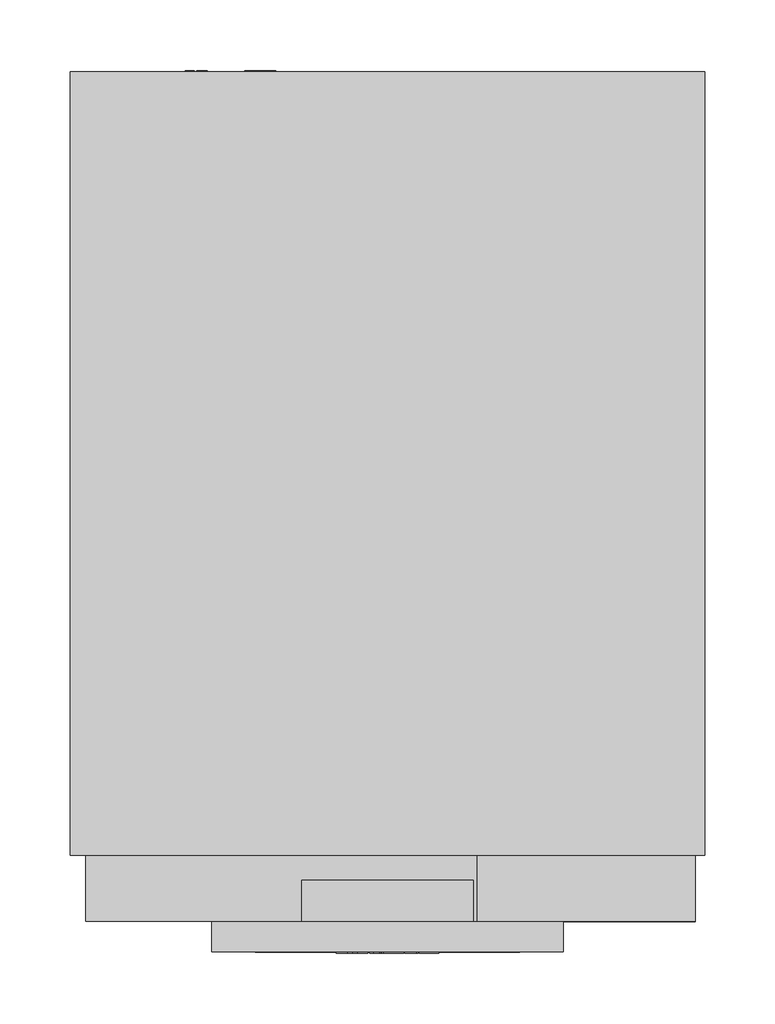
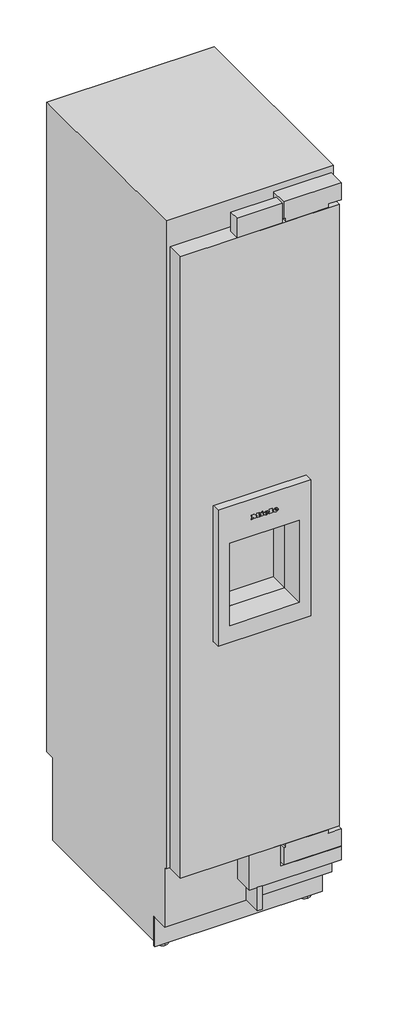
# Not in any storey: 1 proxy.
"""IFC4 building model written with IfcOpenShell, lengths in millimetres."""

import ifcopenshell
import ifcopenshell.guid

model = None  # the IFC model being written
_history = None  # IfcOwnerHistory: only IFC2X3 demands one
_inside = {}  # id of a spatial element -> (the spatial element, [elements in it])
_under = {}  # id of a project, library or spatial element -> (it, [spatial elements below it])
_declared = {}  # id of a project -> (the project, [libraries it declares])
_typed = {}  # id of a type object -> (the type object, [elements of that type])
_made_of = {}  # id of a material, layer set ... -> (it, [elements and type objects made of it])


def new_model(schema):
    """Start an empty IFC model of exactly this schema.

    Asked for "IFC4X3", IfcOpenShell would pick the latest addendum, in which some entities
    have other attributes; the version numbers below select the first issue.
    IFC2X3 requires an IfcOwnerHistory on every rooted entity: one is made here for all.
    """
    global model, _history
    if schema == "IFC4X3":
        model = ifcopenshell.file(schema_version=(4, 3, 0, 0))
    else:
        model = ifcopenshell.file(schema=schema)
    _inside.clear()
    _under.clear()
    _declared.clear()
    _typed.clear()
    _made_of.clear()
    _history = None
    if model.schema == "IFC2X3":
        org = make("IfcOrganization", Name="unknown")
        user = make(
            "IfcPersonAndOrganization",
            ThePerson=make("IfcPerson", FamilyName="unknown"),
            TheOrganization=org,
        )
        app = make(
            "IfcApplication",
            ApplicationDeveloper=org,
            Version="unknown",
            ApplicationFullName="unknown",
            ApplicationIdentifier="unknown",
        )
        _history = make(
            "IfcOwnerHistory",
            OwningUser=user,
            OwningApplication=app,
            ChangeAction="ADDED",
            CreationDate=0,
        )
    return model


def make(cls, **values):
    """One entity of the class cls with the attributes given. An attribute that is None is left unset."""
    return model.create_entity(
        cls, **{name: value for name, value in values.items() if value is not None}
    )


def rooted(cls, **values):
    """An entity with a GlobalId (a new one), such as an element, a storey or a relation."""
    return make(cls, GlobalId=ifcopenshell.guid.new(), OwnerHistory=_history, **values)


def si_unit(unit_type, name, prefix=None):
    """IfcSIUnit, for example si_unit("LENGTHUNIT", "METRE", prefix="MILLI")."""
    return make("IfcSIUnit", UnitType=unit_type, Prefix=prefix, Name=name)


def assignment(units):
    """IfcUnitAssignment: the units of a project."""
    return None if units is None else make("IfcUnitAssignment", Units=units)


def point(xyz):
    """IfcCartesianPoint."""
    return None if xyz is None else make("IfcCartesianPoint", Coordinates=xyz)


def direction(xyz):
    """IfcDirection."""
    return None if xyz is None else make("IfcDirection", DirectionRatios=xyz)


def frame(location, z_axis=None, x_axis=None):
    """IfcAxis2Placement3D, a coordinate frame: its origin and axes. An axis left out is left unset."""
    return make(
        "IfcAxis2Placement3D",
        Location=point(location),
        Axis=direction(z_axis),
        RefDirection=direction(x_axis),
    )


def frame_2d(location, x_axis=None):
    """IfcAxis2Placement2D, a coordinate frame in the plane: its origin and x axis."""
    return make(
        "IfcAxis2Placement2D", Location=point(location), RefDirection=direction(x_axis)
    )


def origin():
    """The frame at (0, 0, 0) with its axes left unset."""
    return frame((0.0, 0.0, 0.0))


def place(relative_to, where):
    """IfcLocalPlacement: puts the frame where relative to a parent placement (None: the world)."""
    return make(
        "IfcLocalPlacement", PlacementRelTo=relative_to, RelativePlacement=where
    )


def context(
    kind, dimensions, precision=None, world=None, true_north=None, identifier=None
):
    """IfcGeometricRepresentationContext, for example the 3D "Model" context."""
    return make(
        "IfcGeometricRepresentationContext",
        ContextIdentifier=identifier,
        ContextType=kind,
        CoordinateSpaceDimension=dimensions,
        Precision=precision,
        WorldCoordinateSystem=world,
        TrueNorth=true_north,
    )


def project(units=None, contexts=None):
    """IfcProject with its units and contexts."""
    return rooted(
        "IfcProject",
        Name="project",
        RepresentationContexts=contexts,
        UnitsInContext=assignment(units),
    )


def spatial(cls, under=None, at=None, **own):
    """A site, building, storey or space (cls), placed at a placement, below another one or the project."""
    s = rooted(cls, ObjectPlacement=at, **own)
    if under is not None:
        _under.setdefault(under.id(), (under, []))[1].append(s)
    return s


def polyline(points):
    """IfcPolyline through the points."""
    return make("IfcPolyline", Points=[point(p) for p in points])


def circle_curve(where, radius):
    """IfcCircle in the frame where."""
    return make("IfcCircle", Position=where, Radius=radius)


def ellipse_curve(where, semi_axis1, semi_axis2):
    """IfcEllipse in the frame where."""
    return make(
        "IfcEllipse", Position=where, SemiAxis1=semi_axis1, SemiAxis2=semi_axis2
    )


def trimmed(basis, trim1, trim2, sense, master):
    """IfcTrimmedCurve: the piece of a basis curve between two trims."""
    return make(
        "IfcTrimmedCurve",
        BasisCurve=basis,
        Trim1=trim1,
        Trim2=trim2,
        SenseAgreement=sense,
        MasterRepresentation=master,
    )


def segment(curve, same_sense, transition):
    """IfcCompositeCurveSegment."""
    return make(
        "IfcCompositeCurveSegment",
        Transition=transition,
        SameSense=same_sense,
        ParentCurve=curve,
    )


def composite_curve(segments, self_intersect=None):
    """IfcCompositeCurve: segments joined end to end."""
    return make("IfcCompositeCurve", Segments=segments, SelfIntersect=self_intersect)


def outline(outer, holes=None, kind="AREA"):
    """IfcArbitraryClosedProfileDef: a profile drawn as a closed curve; with holes, ...WithVoids."""
    if holes is None:
        return make("IfcArbitraryClosedProfileDef", ProfileType=kind, OuterCurve=outer)
    return make(
        "IfcArbitraryProfileDefWithVoids",
        ProfileType=kind,
        OuterCurve=outer,
        InnerCurves=holes,
    )


def extrude(swept, where, along, depth):
    """IfcExtrudedAreaSolid: the profile swept, set in the frame where, extruded along a direction by depth."""
    return make(
        "IfcExtrudedAreaSolid",
        SweptArea=swept,
        Position=where,
        ExtrudedDirection=direction(along),
        Depth=depth,
    )


def faces_of(points, faces, orient=None, outer=None):
    """IfcFace entities. A face is a list of loops; a loop is a list of indices into points, from 0.

    orient and outer hold one flag for each loop. By default every Orientation is true, the
    first loop of a face is its IfcFaceOuterBound and the others are IfcFaceBound.
    """
    made = []
    for i, loops in enumerate(faces):
        bounds = []
        for j, loop in enumerate(loops):
            is_outer = j == 0 if outer is None else outer[i][j]
            bounds.append(
                make(
                    "IfcFaceOuterBound" if is_outer else "IfcFaceBound",
                    Bound=make("IfcPolyLoop", Polygon=[points[k] for k in loop]),
                    Orientation=True if orient is None else orient[i][j],
                )
            )
        made.append(make("IfcFace", Bounds=bounds))
    return made


def faceted_brep(points, faces, orient=None, outer=None, voids=None):
    """IfcFacetedBrep: a solid bounded by flat faces; with voids (closed shells), ...WithVoids."""
    shared = [point(p) for p in points]
    hull = make("IfcClosedShell", CfsFaces=faces_of(shared, faces, orient, outer))
    if voids is None:
        return make("IfcFacetedBrep", Outer=hull)
    return make(
        "IfcFacetedBrepWithVoids",
        Outer=hull,
        Voids=[
            make(cls, CfsFaces=faces_of(shared, fs, o, b)) for cls, fs, o, b in voids
        ],
    )


def shape(context_of_items, identifier, shape_type, items):
    """IfcShapeRepresentation: the items that make up one representation, for example the "Body"."""
    return make(
        "IfcShapeRepresentation",
        ContextOfItems=context_of_items,
        RepresentationIdentifier=identifier,
        RepresentationType=shape_type,
        Items=items,
    )


def source(mapping_origin, context_of_items, identifier, shape_type, items):
    """IfcRepresentationMap: a shape defined once, which mapped items show again and again."""
    return make(
        "IfcRepresentationMap",
        MappingOrigin=mapping_origin,
        MappedRepresentation=shape(context_of_items, identifier, shape_type, items),
    )


def transform(
    local_origin,
    x_axis=None,
    y_axis=None,
    z_axis=None,
    scale=None,
    scale2=None,
    scale3=None,
    uniform=True,
):
    """IfcCartesianTransformationOperator3D, or its non-uniform kind. x_axis, y_axis, z_axis: its Axis1, 2, 3."""
    if uniform:
        return make(
            "IfcCartesianTransformationOperator3D",
            Axis1=direction(x_axis),
            Axis2=direction(y_axis),
            LocalOrigin=point(local_origin),
            Scale=scale,
            Axis3=direction(z_axis),
        )
    return make(
        "IfcCartesianTransformationOperator3DnonUniform",
        Axis1=direction(x_axis),
        Axis2=direction(y_axis),
        LocalOrigin=point(local_origin),
        Scale=scale,
        Axis3=direction(z_axis),
        Scale2=scale2,
        Scale3=scale3,
    )


def mapped(mapping_source, mapping_target):
    """IfcMappedItem: shows the shape of a source again, moved by a transform."""
    return make(
        "IfcMappedItem", MappingSource=mapping_source, MappingTarget=mapping_target
    )


def made_of(thing, what):
    """Note that an element or type object is made of a material, layer set ...; save() writes the relation."""
    if what is not None:
        _made_of.setdefault(what.id(), (what, []))[1].append(thing)
    return thing


def element(
    cls,
    number,
    at=None,
    inside=None,
    cuts=None,
    type_object=None,
    material=None,
    context=None,
    identifier="Body",
    shape_type=None,
    held_by="IfcProductDefinitionShape",
    body=None,
    shapes=None,
    **own,
):
    """One element of the class cls, such as IfcWall. Its Tag is "e" and its number.

    at: its placement. inside: the storey or other place that contains it. cuts: it is an
    opening in that element (IfcRelVoidsElement). A single representation is given by context,
    identifier, shape_type and body (its items); several are given by shapes. held_by: the class
    of the entity that holds the representations. save() writes the other relations.
    """
    e = rooted(cls, Tag="e%d" % number, ObjectPlacement=at, **own)
    if body is not None:
        shapes = [shape(context, identifier, shape_type, body)]
    if shapes is not None:
        e.Representation = make(held_by, Representations=shapes)
    if inside is not None:
        _inside.setdefault(inside.id(), (inside, []))[1].append(e)
    if cuts is not None:
        rooted(
            "IfcRelVoidsElement", RelatingBuildingElement=cuts, RelatedOpeningElement=e
        )
    if type_object is not None:
        _typed.setdefault(type_object.id(), (type_object, []))[1].append(e)
    return made_of(e, material)


def aggregate(whole, parts):
    """IfcRelAggregates: a whole, such as a stair, and the parts it consists of."""
    return rooted("IfcRelAggregates", RelatingObject=whole, RelatedObjects=parts)


def save(model, path):
    """Write the relations noted so far, then the file.

    IfcRelAggregates (storeys below a building ...), IfcRelContainedInSpatialStructure (elements
    in a storey), IfcRelDefinesByType, IfcRelAssociatesMaterial and IfcRelDeclares: one each for
    every whole, place, type object, material and project.
    """
    for whole, parts in _under.values():
        aggregate(whole, parts)
    for where, things in _inside.values():
        rooted(
            "IfcRelContainedInSpatialStructure",
            RelatedElements=things,
            RelatingStructure=where,
        )
    for kind, things in _typed.values():
        rooted("IfcRelDefinesByType", RelatedObjects=things, RelatingType=kind)
    for what, things in _made_of.values():
        rooted("IfcRelAssociatesMaterial", RelatedObjects=things, RelatingMaterial=what)
    for by, libraries in _declared.values():
        rooted("IfcRelDeclares", RelatingContext=by, RelatedDefinitions=libraries)
    model.write(path)


def plane_surface(at):
    """IfcPlane: the flat surface through the origin of the frame at, square to its z axis."""
    return make("IfcPlane", Position=at)


def cylinder_surface(at, radius):
    """IfcCylindricalSurface: all points at the distance radius from the z axis of the frame at."""
    return make("IfcCylindricalSurface", Position=at, Radius=radius)


def revolved_surface(curve, axis_point, axis_direction):
    """IfcSurfaceOfRevolution: the curve turned about the line through axis_point along axis_direction."""
    return make(
        "IfcSurfaceOfRevolution",
        SweptCurve=make("IfcArbitraryOpenProfileDef", ProfileType="CURVE", Curve=curve),
        AxisPosition=make("IfcAxis1Placement", Location=point(axis_point), Axis=direction(axis_direction)),
    )


def extruded_surface(curve, direction_of_extrusion, depth):
    """IfcSurfaceOfLinearExtrusion: the curve pushed along a direction by depth."""
    return make(
        "IfcSurfaceOfLinearExtrusion",
        SweptCurve=make("IfcArbitraryOpenProfileDef", ProfileType="CURVE", Curve=curve),
        ExtrudedDirection=direction(direction_of_extrusion),
        Depth=depth,
    )


def advanced_brep(points, edges, surfaces, faces):
    """IfcAdvancedBrep: a solid bounded by faces that lie on surfaces and meet in shared edges.

    An edge is (start, end): straight between two places in points (the first is 0);
    or (start, end, curve); or (start, end, curve, False) where it runs against its curve.
    A face is (place in surfaces, loops), or (place, loops, False) where it looks against
    its surface's normal. A loop lists edges by number (the first is 1), with a minus sign
    where the edge is run from its end to its start. The first loop is the outer one.
    """
    corners = [point(p) for p in points]
    vertices = [make("IfcVertexPoint", VertexGeometry=c) for c in corners]
    made = []
    for start, end, *more in edges:
        made.append(
            make(
                "IfcEdgeCurve",
                EdgeStart=vertices[start],
                EdgeEnd=vertices[end],
                EdgeGeometry=more[0] if more else make("IfcPolyline", Points=[corners[start], corners[end]]),
                SameSense=more[1] if len(more) > 1 else True,
            )
        )
    hull = []
    for where, loops, *sense in faces:
        bounds = []
        for j, loop in enumerate(loops):
            ring = [make("IfcOrientedEdge", EdgeElement=made[abs(k) - 1], Orientation=k > 0) for k in loop]
            bounds.append(
                make(
                    "IfcFaceOuterBound" if j == 0 else "IfcFaceBound",
                    Bound=make("IfcEdgeLoop", EdgeList=ring),
                    Orientation=True,
                )
            )
        hull.append(make("IfcAdvancedFace", Bounds=bounds, FaceSurface=surfaces[where], SameSense=sense[0] if sense else True))
    return make("IfcAdvancedBrep", Outer=make("IfcClosedShell", CfsFaces=hull))


def specialty_equipment_a8662d09(model_context):
    return source(origin(), model_context, "Body", "SolidModel", [
        extrude(outline(polyline([(-6.5, 54.0), (6.5, 54.0), (6.5, 0.0), (-6.5, 0.0), (-6.5, 54.0)])), frame((0.0, 0.0, 99.0), z_axis=(0.0, 0.0, 1.0), x_axis=(1.0, 0.0, 0.0)), (0.0, 0.0, 1.0), 67.0),
        faceted_brep([(125.0, -21.7, 1295.0), (-125.0, -21.7, 1295.0), (-125.0, -21.7, 908.0), (125.0, -21.7, 908.0), (94.0, -21.7, 1190.0), (94.0, -21.7, 956.0), (-94.0, -21.7, 956.0), (-94.0, -21.7, 1190.0), (125.0, 47.0, 1295.0), (125.0, 47.0, 908.0), (-125.0, 47.0, 908.0), (-125.0, 47.0, 1295.0), (94.0, 47.0, 1190.0), (-94.0, 47.0, 1190.0), (-94.0, 47.0, 956.0), (94.0, 47.0, 956.0), (-94.0, -11.7943775, 1190.0), (94.0, -11.7943775, 1190.0), (-94.0, -11.7943775, 956.0), (94.0, -11.7943775, 956.0)], [[[0, 1, 2, 3], [4, 5, 6, 7]], [[8, 9, 10, 11], [12, 13, 14, 15]], [[0, 3, 9, 8]], [[3, 2, 10, 9]], [[2, 1, 11, 10]], [[1, 0, 8, 11]], [[4, 7, 16, 13, 12, 17]], [[7, 6, 18, 14, 13, 16]], [[6, 5, 19, 15, 14, 18]], [[5, 4, 17, 12, 15, 19]]]),
        extrude(outline(polyline([(2036.0, 214.5), (2036.0, -214.5), (265.0, -214.5), (265.0, 214.5), (2036.0, 214.5)]), holes=[polyline([(1295.0, 125.0), (908.0, 125.0), (908.0, -125.0), (1295.0, -125.0), (1295.0, 125.0)])]), frame((0.0, 0.0, 0.0), z_axis=(0.0, 1.0, 0.0), x_axis=(0.0, 0.0, 1.0)), (0.0, 0.0, 1.0), 47.0),
        faceted_brep([(-158.0, 47.0, 863.0), (-158.0, 47.0, 1335.0), (-158.0, 239.0, 1335.0), (-158.0, 239.0, 987.0), (-158.0, 140.0, 863.0), (158.0, 47.0, 863.0), (158.0, 140.0, 863.0), (158.0, 239.0, 987.0), (158.0, 239.0, 1335.0), (158.0, 47.0, 1335.0), (94.0, 47.0, 1190.0), (94.0, 47.0, 956.0), (-94.0, 47.0, 956.0), (-94.0, 47.0, 1190.0), (94.0, 100.0, 1190.0), (-94.0, 100.0, 1190.0), (-94.0, 100.0, 956.0), (94.0, 100.0, 956.0)], [[[0, 1, 2, 3, 4]], [[5, 6, 7, 8, 9]], [[0, 4, 6, 5]], [[4, 3, 7, 6]], [[3, 2, 8, 7]], [[2, 1, 9, 8]], [[1, 0, 5, 9], [10, 11, 12, 13]], [[14, 15, 16, 17]], [[14, 17, 11, 10]], [[17, 16, 12, 11]], [[16, 15, 13, 12]], [[15, 14, 10, 13]]]),
        extrude(outline(polyline([(-61.0, 29.0), (61.0, 29.0), (61.0, 0.0), (-61.0, 0.0), (-61.0, 29.0)])), frame((0.0, 0.0, 2036.0), z_axis=(0.0, 0.0, 1.0), x_axis=(1.0, 0.0, 0.0)), (0.0, 0.0, 1.0), 56.0),
        advanced_brep(
        [(28.472, -22.7, 1241.344), (28.472, -22.7, 1242.556), (36.5, -22.7, 1242.556), (22.532, -22.7, 1242.556), (25.832, -22.7, 1238.5), (36.296, -22.7, 1241.344), (32.672, -22.7, 1241.344), (29.816, -22.7, 1240.0), (28.472, -22.7, 1244.092), (28.472, -22.7, 1245.4), (30.524, -22.7, 1245.4), (30.524, -22.7, 1244.092), (28.472, -21.7, 1241.344), (29.816, -21.7, 1240.0), (32.672, -21.7, 1241.344), (36.296, -21.7, 1241.344), (25.832, -21.7, 1238.5), (22.532, -21.7, 1242.556), (36.5, -21.7, 1242.556), (28.472, -21.7, 1242.556), (28.472, -21.7, 1244.092), (30.524, -21.7, 1244.092), (30.524, -21.7, 1245.4), (28.472, -21.7, 1245.4)],
        [
            (0, 1),
            (1, 2),
            (2, 3, ellipse_curve(frame((29.516, -22.7, 1242.556), z_axis=(0.0, -1.0, 0.0), x_axis=(-1.0, 0.0, 0.0)), 6.984, 5.772)),
            (3, 4, circle_curve(frame((27.1760655, -22.7, 1242.964), z_axis=(0.0, -1.0, 0.0), x_axis=(0.0, 0.0, -1.0)), 4.6619532)),
            (4, 5, circle_curve(frame((29.3761904, -22.7, 1246.132), z_axis=(0.0, -1.0, 0.0), x_axis=(0.0, 0.0, -1.0)), 8.4147911)),
            (5, 6),
            (6, 7, circle_curve(frame((30.4025882, -22.7, 1242.46), z_axis=(0.0, 1.0, 0.0), x_axis=(0.0, 0.0, -1.0)), 2.5289693)),
            (7, 0, circle_curve(frame((29.816, -22.7, 1241.344), z_axis=(0.0, 1.0, 0.0), x_axis=(0.0, 0.0, -1.0)), 1.344)),
            (8, 9),
            (9, 10, circle_curve(frame((29.498, -22.7, 1245.4), z_axis=(0.0, 1.0, 0.0), x_axis=(0.0, 0.0, -1.0)), 1.026)),
            (10, 11),
            (11, 8),
            (12, 13, circle_curve(frame((29.816, -21.7, 1241.344), z_axis=(0.0, -1.0, 0.0), x_axis=(0.0, 0.0, -1.0)), 1.344)),
            (13, 14, circle_curve(frame((30.4025882, -21.7, 1242.46), z_axis=(0.0, -1.0, 0.0), x_axis=(0.0, 0.0, -1.0)), 2.5289693)),
            (14, 15),
            (15, 16, circle_curve(frame((29.3761904, -21.7, 1246.132), z_axis=(0.0, 1.0, 0.0), x_axis=(0.0, 0.0, -1.0)), 8.4147911)),
            (16, 17, circle_curve(frame((27.1760655, -21.7, 1242.964), z_axis=(0.0, 1.0, 0.0), x_axis=(0.0, 0.0, -1.0)), 4.6619532)),
            (17, 18, ellipse_curve(frame((29.516, -21.7, 1242.556), z_axis=(0.0, 1.0, 0.0), x_axis=(-1.0, 0.0, 0.0)), 6.984, 5.772)),
            (18, 19),
            (19, 12),
            (20, 21),
            (21, 22),
            (22, 23, circle_curve(frame((29.498, -21.7, 1245.4), z_axis=(0.0, -1.0, 0.0), x_axis=(0.0, 0.0, -1.0)), 1.026)),
            (23, 20),
            (0, 12),
            (19, 1),
            (18, 2),
            (5, 15),
            (14, 6),
            (17, 3),
            (13, 7),
            (16, 4),
            (8, 20),
            (23, 9),
            (22, 10),
            (21, 11),
        ],
        [
            plane_surface(frame((28.472, -22.7, 1242.556), z_axis=(0.0, -1.0, 0.0), x_axis=(0.0, 0.0, 1.0))),
            plane_surface(frame((28.472, -21.7, 1242.556), z_axis=(0.0, 1.0, 0.0), x_axis=(0.0, 0.0, -1.0))),
            plane_surface(frame((28.472, -22.7, 1241.344), z_axis=(1.0, 0.0, 0.0), x_axis=(0.0, 1.0, 0.0))),
            plane_surface(frame((28.472, -22.7, 1242.556), z_axis=(0.0, 0.0, -1.0), x_axis=(0.0, 1.0, 0.0))),
            plane_surface(frame((36.296, -22.7, 1241.344), z_axis=(0.0, 0.0, 1.0), x_axis=(0.0, 1.0, 0.0))),
            extruded_surface(trimmed(ellipse_curve(frame((29.516, -20.7, 1242.556), z_axis=(0.0, -1.0, 0.0), x_axis=(-1.0, 0.0, 0.0)), 6.984, 5.772), [point((36.5, -20.7, 1242.556))], [point((22.532, -20.7, 1242.556))], True, "CARTESIAN"), (0.0, -1.0, 0.0), 1.0),
            revolved_surface(polyline([(30.4025882, -21.7, 1239.9310307), (30.4025882, -22.7, 1239.9310307)]), (30.4025882, -21.7, 1242.46), (0.0, 1.0, 0.0)),
            revolved_surface(polyline([(29.816, -21.7, 1240.0), (29.816, -22.7, 1240.0)]), (29.816, -21.7, 1241.344), (0.0, 1.0, 0.0)),
            cylinder_surface(frame((27.1760655, -21.7, 1242.964), z_axis=(0.0, -1.0, 0.0), x_axis=(0.0, 0.0, -1.0)), 4.6619532),
            cylinder_surface(frame((29.3761904, -21.7, 1246.132), z_axis=(0.0, -1.0, 0.0), x_axis=(0.0, 0.0, -1.0)), 8.4147911),
            plane_surface(frame((28.472, -22.7, 1244.092), z_axis=(1.0, 0.0, 0.0), x_axis=(0.0, 1.0, 0.0))),
            revolved_surface(polyline([(29.498, -21.7, 1244.374), (29.498, -22.7, 1244.374)]), (29.498, -21.7, 1245.4), (0.0, 1.0, 0.0)),
            plane_surface(frame((30.524, -22.7, 1245.4), z_axis=(-1.0, 0.0, 0.0), x_axis=(0.0, 1.0, 0.0))),
            plane_surface(frame((30.524, -22.7, 1244.092), z_axis=(0.0, 0.0, 1.0), x_axis=(0.0, 1.0, 0.0))),
        ],
        [
            (0, [[1, 2, 3, 4, 5, 6, 7, 8], [9, 10, 11, 12]]),
            (1, [[13, 14, 15, 16, 17, 18, 19, 20], [21, 22, 23, 24]]),
            (2, [[-1, 25, -20, 26]]),
            (3, [[-2, -26, -19, 27]]),
            (4, [[-6, 28, -15, 29]]),
            (5, [[-3, -27, -18, 30]]),
            (6, [[-7, -29, -14, 31]]),
            (7, [[-8, -31, -13, -25]]),
            (8, [[-4, -30, -17, 32]]),
            (9, [[-5, -32, -16, -28]]),
            (10, [[-9, 33, -24, 34]]),
            (11, [[-10, -34, -23, 35]]),
            (12, [[-11, -35, -22, 36]]),
            (13, [[-12, -36, -21, -33]]),
        ],
    ),
        advanced_brep(
        [(3.428, -22.7, 1241.344), (3.428, -22.7, 1242.556), (11.456, -22.7, 1242.556), (-2.512, -22.7, 1242.556), (0.788, -22.7, 1238.5), (11.252, -22.7, 1241.344), (7.628, -22.7, 1241.344), (4.772, -22.7, 1240.0), (3.428, -22.7, 1244.092), (3.428, -22.7, 1245.4), (5.48, -22.7, 1245.4), (5.48, -22.7, 1244.092), (3.428, -21.7, 1241.344), (4.772, -21.7, 1240.0), (7.628, -21.7, 1241.344), (11.252, -21.7, 1241.344), (0.788, -21.7, 1238.5), (-2.512, -21.7, 1242.556), (11.456, -21.7, 1242.556), (3.428, -21.7, 1242.556), (3.428, -21.7, 1244.092), (5.48, -21.7, 1244.092), (5.48, -21.7, 1245.4), (3.428, -21.7, 1245.4)],
        [
            (0, 1),
            (1, 2),
            (2, 3, ellipse_curve(frame((4.472, -22.7, 1242.556), z_axis=(0.0, -1.0, 0.0), x_axis=(-1.0, 0.0, 0.0)), 6.984, 5.772)),
            (3, 4, circle_curve(frame((2.1320655, -22.7, 1242.964), z_axis=(0.0, -1.0, 0.0), x_axis=(0.0, 0.0, -1.0)), 4.6619532)),
            (4, 5, circle_curve(frame((4.3321904, -22.7, 1246.132), z_axis=(0.0, -1.0, 0.0), x_axis=(0.0, 0.0, -1.0)), 8.4147911)),
            (5, 6),
            (6, 7, circle_curve(frame((5.3585882, -22.7, 1242.46), z_axis=(0.0, 1.0, 0.0), x_axis=(0.0, 0.0, -1.0)), 2.5289693)),
            (7, 0, circle_curve(frame((4.772, -22.7, 1241.344), z_axis=(0.0, 1.0, 0.0), x_axis=(0.0, 0.0, -1.0)), 1.344)),
            (8, 9),
            (9, 10, circle_curve(frame((4.454, -22.7, 1245.4), z_axis=(0.0, 1.0, 0.0), x_axis=(0.0, 0.0, -1.0)), 1.026)),
            (10, 11),
            (11, 8),
            (12, 13, circle_curve(frame((4.772, -21.7, 1241.344), z_axis=(0.0, -1.0, 0.0), x_axis=(0.0, 0.0, -1.0)), 1.344)),
            (13, 14, circle_curve(frame((5.3585882, -21.7, 1242.46), z_axis=(0.0, -1.0, 0.0), x_axis=(0.0, 0.0, -1.0)), 2.5289693)),
            (14, 15),
            (15, 16, circle_curve(frame((4.3321904, -21.7, 1246.132), z_axis=(0.0, 1.0, 0.0), x_axis=(0.0, 0.0, -1.0)), 8.4147911)),
            (16, 17, circle_curve(frame((2.1320655, -21.7, 1242.964), z_axis=(0.0, 1.0, 0.0), x_axis=(0.0, 0.0, -1.0)), 4.6619532)),
            (17, 18, ellipse_curve(frame((4.472, -21.7, 1242.556), z_axis=(0.0, 1.0, 0.0), x_axis=(-1.0, 0.0, 0.0)), 6.984, 5.772)),
            (18, 19),
            (19, 12),
            (20, 21),
            (21, 22),
            (22, 23, circle_curve(frame((4.454, -21.7, 1245.4), z_axis=(0.0, -1.0, 0.0), x_axis=(0.0, 0.0, -1.0)), 1.026)),
            (23, 20),
            (0, 12),
            (19, 1),
            (18, 2),
            (5, 15),
            (14, 6),
            (17, 3),
            (13, 7),
            (16, 4),
            (8, 20),
            (23, 9),
            (22, 10),
            (21, 11),
        ],
        [
            plane_surface(frame((3.428, -22.7, 1242.556), z_axis=(0.0, -1.0, 0.0), x_axis=(0.0, 0.0, 1.0))),
            plane_surface(frame((3.428, -21.7, 1242.556), z_axis=(0.0, 1.0, 0.0), x_axis=(0.0, 0.0, -1.0))),
            plane_surface(frame((3.428, -22.7, 1241.344), z_axis=(1.0, 0.0, 0.0), x_axis=(0.0, 1.0, 0.0))),
            plane_surface(frame((3.428, -22.7, 1242.556), z_axis=(0.0, 0.0, -1.0), x_axis=(0.0, 1.0, 0.0))),
            plane_surface(frame((11.252, -22.7, 1241.344), z_axis=(0.0, 0.0, 1.0), x_axis=(0.0, 1.0, 0.0))),
            extruded_surface(trimmed(ellipse_curve(frame((4.472, -20.7, 1242.556), z_axis=(0.0, -1.0, 0.0), x_axis=(-1.0, 0.0, 0.0)), 6.984, 5.772), [point((11.456, -20.7, 1242.556))], [point((-2.512, -20.7, 1242.556))], True, "CARTESIAN"), (0.0, -1.0, 0.0), 1.0),
            revolved_surface(polyline([(5.3585882, -21.7, 1239.9310307), (5.3585882, -22.7, 1239.9310307)]), (5.3585882, -21.7, 1242.46), (0.0, 1.0, 0.0)),
            revolved_surface(polyline([(4.772, -21.7, 1240.0), (4.772, -22.7, 1240.0)]), (4.772, -21.7, 1241.344), (0.0, 1.0, 0.0)),
            cylinder_surface(frame((2.1320655, -21.7, 1242.964), z_axis=(0.0, -1.0, 0.0), x_axis=(0.0, 0.0, -1.0)), 4.6619532),
            cylinder_surface(frame((4.3321904, -21.7, 1246.132), z_axis=(0.0, -1.0, 0.0), x_axis=(0.0, 0.0, -1.0)), 8.4147911),
            plane_surface(frame((3.428, -22.7, 1244.092), z_axis=(1.0, 0.0, 0.0), x_axis=(0.0, 1.0, 0.0))),
            revolved_surface(polyline([(4.454, -21.7, 1244.374), (4.454, -22.7, 1244.374)]), (4.454, -21.7, 1245.4), (0.0, 1.0, 0.0)),
            plane_surface(frame((5.48, -22.7, 1245.4), z_axis=(-1.0, 0.0, 0.0), x_axis=(0.0, 1.0, 0.0))),
            plane_surface(frame((5.48, -22.7, 1244.092), z_axis=(0.0, 0.0, 1.0), x_axis=(0.0, 1.0, 0.0))),
        ],
        [
            (0, [[1, 2, 3, 4, 5, 6, 7, 8], [9, 10, 11, 12]]),
            (1, [[13, 14, 15, 16, 17, 18, 19, 20], [21, 22, 23, 24]]),
            (2, [[-1, 25, -20, 26]]),
            (3, [[-2, -26, -19, 27]]),
            (4, [[-6, 28, -15, 29]]),
            (5, [[-3, -27, -18, 30]]),
            (6, [[-7, -29, -14, 31]]),
            (7, [[-8, -31, -13, -25]]),
            (8, [[-4, -30, -17, 32]]),
            (9, [[-5, -32, -16, -28]]),
            (10, [[-9, 33, -24, 34]]),
            (11, [[-10, -34, -23, 35]]),
            (12, [[-11, -35, -22, 36]]),
            (13, [[-12, -36, -21, -33]]),
        ],
    ),
        extrude(outline(polyline([(1249.792, -9.688), (1247.848, -8.776), (1249.744, -4.708), (1251.688, -5.608), (1249.792, -9.688)])), frame((0.0, -22.7, 0.0), z_axis=(0.0, 1.0, 0.0), x_axis=(0.0, 0.0, 1.0)), (0.0, 0.0, 1.0), 1.0),
        extrude(outline(polyline([(1247.584, -12.652), (1245.436, -12.652), (1245.436, -11.224), (1240.516, -11.224), (1240.516, -12.652), (1238.5, -12.652), (1238.5, -3.184), (1240.516, -3.184), (1240.516, -4.576), (1247.584, -4.576), (1247.584, -12.652)])), frame((0.0, -22.7, 0.0), z_axis=(0.0, 1.0, 0.0), x_axis=(0.0, 0.0, 1.0)), (0.0, 0.0, 1.0), 1.0),
        extrude(outline(polyline([(1248.544, 12.128), (1248.544, 13.568), (1240.516, 13.568), (1240.516, 12.128), (1238.5, 12.128), (1238.5, 21.86), (1240.516, 21.86), (1240.516, 20.384), (1250.5, 20.384), (1250.5, 12.128), (1248.544, 12.128)])), frame((0.0, -22.7, 0.0), z_axis=(0.0, 1.0, 0.0), x_axis=(0.0, 0.0, 1.0)), (0.0, 0.0, 1.0), 1.0),
        extrude(outline(polyline([(1248.544, -36.568), (1248.544, -35.116), (1240.516, -35.116), (1240.516, -36.568), (1238.5, -36.568), (1238.5, -31.288), (1240.516, -31.288), (1240.516, -32.728), (1245.5951247, -32.728), (1238.5, -27.364), (1245.8152223, -21.976), (1240.516, -21.976), (1240.516, -23.452), (1238.5, -23.452), (1238.5, -13.876), (1240.516, -13.876), (1240.516, -15.4), (1248.544, -15.4), (1248.544, -13.876), (1250.5, -13.876), (1250.5, -21.184), (1246.0, -24.688), (1250.5, -28.204), (1250.5, -36.568), (1248.544, -36.568)])), frame((0.0, -22.7, 0.0), z_axis=(0.0, 1.0, 0.0), x_axis=(0.0, 0.0, 1.0)), (0.0, 0.0, 1.0), 1.0),
        extrude(outline(polyline([(519.0, 1998.0), (519.0, 1799.0), (447.0526316, 1799.0), (422.0, 1867.0), (201.7448904, 1867.0), (157.0, 1939.0), (87.0, 1949.0), (87.0, 1998.0), (519.0, 1998.0)])), frame((-179.5, 0.0, 0.0), z_axis=(1.0, 0.0, 0.0), x_axis=(0.0, 1.0, 0.0)), (0.0, 0.0, 1.0), 359.0),
        extrude(outline(polyline([(196.9886114, 1875.0), (195.809433, 1875.0), (158.6921935, 1934.4), (159.8713719, 1934.4), (196.9886114, 1875.0)])), frame((-69.0, 0.0, 0.0), z_axis=(1.0, 0.0, 0.0), x_axis=(0.0, 1.0, 0.0)), (0.0, 0.0, 1.0), 138.0),
        extrude(outline(polyline([(46.0510837, -89.101717), (37.4134902, -91.1745179), (46.0453554, -93.6868463), (46.0453554, -95.5601414), (37.4089549, -98.0799633), (46.0493903, -100.1581876), (46.0493903, -101.4649805), (36.0005458, -98.7156324), (36.0005458, -97.372208), (44.8261022, -94.6342221), (35.9987467, -92.0620509), (35.9987287, -90.5451466), (46.0510837, -87.800191), (46.0510837, -89.101717)])), frame((0.0, 604.0, 0.0), z_axis=(0.0, 1.0, 0.0), x_axis=(0.0, 0.0, 1.0)), (0.0, 0.0, 1.0), 1.0),
        extrude(outline(polyline([(46.0485238, -80.7401503), (41.1363122, -80.7401503), (46.0468162, -85.884602), (46.0468162, -87.6328316), (41.9156889, -83.3260313), (36.000035, -87.8032231), (36.000035, -86.2795519), (41.0742849, -82.4391666), (39.4525334, -80.7395503), (35.9999292, -80.7395503), (35.9999292, -79.4795491), (46.0485238, -79.4795491), (46.0485238, -80.7401503)])), frame((0.0, 604.0, 0.0), z_axis=(0.0, 1.0, 0.0), x_axis=(0.0, 0.0, 1.0)), (0.0, 0.0, 1.0), 1.0),
        extrude(outline(composite_curve([segment(trimmed(circle_curve(frame_2d((41.0, -90.0)), 7.5), [point((33.5, -90.0))], [point((48.5, -90.0))], False, "CARTESIAN"), True, "CONTINUOUS"), segment(trimmed(circle_curve(frame_2d((41.0, -90.0)), 7.5), [point((48.5, -90.0))], [point((33.5, -90.0))], False, "CARTESIAN"), True, "CONTINUOUS")], self_intersect=False)), frame((0.0, 577.0, 0.0), z_axis=(0.0, 1.0, 0.0), x_axis=(0.0, 0.0, 1.0)), (0.0, 0.0, 1.0), 27.0),
        extrude(outline(polyline([(2095.0, 219.0), (2095.0, 64.0), (2047.0, 64.0), (2047.0, 70.0), (2036.5, 70.0), (2036.5, 185.0), (2047.0, 185.0), (2047.0, 219.0), (2095.0, 219.0)])), frame((0.0, 0.0, 0.0), z_axis=(0.0, 1.0, 0.0), x_axis=(0.0, 0.0, 1.0)), (0.0, 0.0, 1.0), 47.0),
        extrude(outline(polyline([(254.0, 64.0), (206.0, 64.0), (206.0, 219.0), (254.0, 219.0), (254.0, 185.0), (264.0, 185.0), (264.0, 70.0), (254.0, 70.0), (254.0, 64.0)])), frame((0.0, 0.0, 0.0), z_axis=(0.0, 1.0, 0.0), x_axis=(0.0, 0.0, 1.0)), (0.0, 0.0, 1.0), 54.0),
        extrude(outline(polyline([(166.0, -28.5), (166.0, 219.0), (205.0, 219.0), (205.0, 55.5), (265.0, 55.5), (265.0, -28.5), (166.0, -28.5)])), frame((0.0, 0.0, 0.0), z_axis=(0.0, 1.0, 0.0), x_axis=(0.0, 0.0, 1.0)), (0.0, 0.0, 1.0), 54.0),
        extrude(outline(polyline([(99.0373308, -135.2645771), (97.7615342, -135.2645771), (97.7615342, -129.3195541), (94.7968516, -129.3195541), (94.7968516, -134.969579), (93.5246295, -134.969579), (93.5246295, -129.3415693), (90.2570046, -129.3415693), (90.2570046, -135.4619689), (88.9546219, -135.4619689), (88.9546219, -128.0443524), (99.0373308, -128.0443524), (99.0373308, -135.2645771)])), frame((0.0, 604.0, 0.0), z_axis=(0.0, 1.0, 0.0), x_axis=(0.0, 0.0, 1.0)), (0.0, 0.0, 1.0), 1.0),
        extrude(outline(polyline([(99.0458, -138.5619704), (90.2663944, -138.5619704), (90.2663944, -143.6145879), (89.0134802, -143.6145879), (89.0134802, -137.3423809), (99.0458, -137.3423809), (99.0458, -138.5619704)])), frame((0.0, 604.0, 0.0), z_axis=(0.0, 1.0, 0.0), x_axis=(0.0, 0.0, 1.0)), (0.0, 0.0, 1.0), 1.0),
        extrude(outline(composite_curve([segment(trimmed(circle_curve(frame_2d((94.0, -135.5)), 7.5), [point((86.5, -135.5))], [point((101.5, -135.5))], False, "CARTESIAN"), True, "CONTINUOUS"), segment(trimmed(circle_curve(frame_2d((94.0, -135.5)), 7.5), [point((101.5, -135.5))], [point((86.5, -135.5))], False, "CARTESIAN"), True, "CONTINUOUS")], self_intersect=False)), frame((0.0, 577.0, 0.0), z_axis=(0.0, 1.0, 0.0), x_axis=(0.0, 0.0, 1.0)), (0.0, 0.0, 1.0), 27.0),
        extrude(outline(polyline([(-225.5, 104.0), (225.5, 104.0), (225.5, 99.0), (-225.5, 99.0), (-225.5, 104.0)])), frame((0.0, 0.0, 14.0), z_axis=(0.0, 0.0, 1.0), x_axis=(1.0, 0.0, 0.0)), (0.0, 0.0, 1.0), 83.0),
        advanced_brep(
        [(-191.5, 139.0, 0.0), (-191.5, 109.0, 0.0), (-191.5, 139.0, 7.0), (-191.5, 109.0, 7.0), (-191.5, 128.7, 7.0), (-191.5, 119.3, 7.0), (-191.5, 128.7, 28.0), (-191.5, 119.3, 28.0)],
        [
            (0, 1, circle_curve(frame((-191.5, 124.0, 0.0), z_axis=(0.0, 0.0, -1.0), x_axis=(1.0, 0.0, 0.0)), 15.0)),
            (1, 0, circle_curve(frame((-191.5, 124.0, 0.0), z_axis=(0.0, 0.0, -1.0), x_axis=(1.0, 0.0, 0.0)), 15.0)),
            (2, 3, circle_curve(frame((-191.5, 124.0, 7.0), z_axis=(0.0, 0.0, 1.0), x_axis=(1.0, 0.0, 0.0)), 15.0)),
            (3, 2, circle_curve(frame((-191.5, 124.0, 7.0), z_axis=(0.0, 0.0, 1.0), x_axis=(1.0, 0.0, 0.0)), 15.0)),
            (4, 5, circle_curve(frame((-191.5, 124.0, 7.0), z_axis=(0.0, 0.0, -1.0), x_axis=(0.0, -1.0, 0.0)), 4.7)),
            (5, 4, circle_curve(frame((-191.5, 124.0, 7.0), z_axis=(0.0, 0.0, -1.0), x_axis=(0.0, -1.0, 0.0)), 4.7)),
            (0, 2),
            (3, 1),
            (6, 7, circle_curve(frame((-191.5, 124.0, 28.0), z_axis=(0.0, 0.0, 1.0), x_axis=(0.0, -1.0, 0.0)), 4.7)),
            (7, 6, circle_curve(frame((-191.5, 124.0, 28.0), z_axis=(0.0, 0.0, 1.0), x_axis=(0.0, -1.0, 0.0)), 4.7)),
            (7, 5),
            (4, 6),
        ],
        [
            plane_surface(frame((-176.5, 124.0, 0.0), z_axis=(0.0, 0.0, -1.0), x_axis=(0.0, -1.0, 0.0))),
            plane_surface(frame((-176.5, 124.0, 7.0), z_axis=(0.0, 0.0, 1.0), x_axis=(0.0, 1.0, 0.0))),
            cylinder_surface(frame((-191.5, 124.0, 7.0), z_axis=(0.0, 0.0, -1.0), x_axis=(1.0, 0.0, 0.0)), 15.0),
            plane_surface(frame((-191.5, 119.3, 28.0), z_axis=(0.0, 0.0, 1.0), x_axis=(1.0, 0.0, 0.0))),
            cylinder_surface(frame((-191.5, 124.0, 28.0), z_axis=(0.0, 0.0, -1.0), x_axis=(0.0, -1.0, 0.0)), 4.7),
        ],
        [
            (0, [[1, 2]]),
            (1, [[3, 4], [5, 6]]),
            (2, [[-1, 7, -4, 8]]),
            (2, [[-2, -8, -3, -7]]),
            (3, [[9, 10]]),
            (4, [[-10, 11, -5, 12]]),
            (4, [[-9, -12, -6, -11]]),
        ],
    ),
        advanced_brep(
        [(191.5, 139.0, 0.0), (191.5, 109.0, 0.0), (191.5, 139.0, 7.0), (191.5, 109.0, 7.0), (191.5, 128.7, 7.0), (191.5, 119.3, 7.0), (191.5, 128.7, 28.0), (191.5, 119.3, 28.0)],
        [
            (0, 1, circle_curve(frame((191.5, 124.0, 0.0), z_axis=(0.0, 0.0, -1.0), x_axis=(1.0, 0.0, 0.0)), 15.0)),
            (1, 0, circle_curve(frame((191.5, 124.0, 0.0), z_axis=(0.0, 0.0, -1.0), x_axis=(1.0, 0.0, 0.0)), 15.0)),
            (2, 3, circle_curve(frame((191.5, 124.0, 7.0), z_axis=(0.0, 0.0, 1.0), x_axis=(1.0, 0.0, 0.0)), 15.0)),
            (3, 2, circle_curve(frame((191.5, 124.0, 7.0), z_axis=(0.0, 0.0, 1.0), x_axis=(1.0, 0.0, 0.0)), 15.0)),
            (4, 5, circle_curve(frame((191.5, 124.0, 7.0), z_axis=(0.0, 0.0, -1.0), x_axis=(0.0, -1.0, 0.0)), 4.7)),
            (5, 4, circle_curve(frame((191.5, 124.0, 7.0), z_axis=(0.0, 0.0, -1.0), x_axis=(0.0, -1.0, 0.0)), 4.7)),
            (0, 2),
            (3, 1),
            (6, 7, circle_curve(frame((191.5, 124.0, 28.0), z_axis=(0.0, 0.0, 1.0), x_axis=(0.0, -1.0, 0.0)), 4.7)),
            (7, 6, circle_curve(frame((191.5, 124.0, 28.0), z_axis=(0.0, 0.0, 1.0), x_axis=(0.0, -1.0, 0.0)), 4.7)),
            (7, 5),
            (4, 6),
        ],
        [
            plane_surface(frame((-176.5, 124.0, 0.0), z_axis=(0.0, 0.0, -1.0), x_axis=(0.0, -1.0, 0.0))),
            plane_surface(frame((-176.5, 124.0, 7.0), z_axis=(0.0, 0.0, 1.0), x_axis=(0.0, 1.0, 0.0))),
            cylinder_surface(frame((191.5, 124.0, 7.0), z_axis=(0.0, 0.0, -1.0), x_axis=(1.0, 0.0, 0.0)), 15.0),
            plane_surface(frame((-191.5, 119.3, 28.0), z_axis=(0.0, 0.0, 1.0), x_axis=(1.0, 0.0, 0.0))),
            cylinder_surface(frame((191.5, 124.0, 28.0), z_axis=(0.0, 0.0, -1.0), x_axis=(0.0, -1.0, 0.0)), 4.7),
        ],
        [
            (0, [[1, 2]]),
            (1, [[3, 4], [5, 6]]),
            (2, [[-1, 7, -4, 8]]),
            (2, [[-2, -8, -3, -7]]),
            (3, [[9, 10]]),
            (4, [[-10, 11, -5, 12]]),
            (4, [[-9, -12, -6, -11]]),
        ],
    ),
        advanced_brep(
        [(225.5, 47.0, 2114.0), (225.5, 47.0, 267.0), (225.5, 54.0, 267.0), (225.5, 54.0, 97.0), (225.5, 104.0, 97.0), (225.5, 104.0, 28.0), (225.5, 577.0, 28.0), (225.5, 577.0, 263.0), (225.5, 604.0, 263.0), (225.5, 604.0, 2114.0), (-225.5, 47.0, 2114.0), (-225.5, 604.0, 2114.0), (-225.5, 604.0, 263.0), (-225.5, 577.0, 263.0), (-225.5, 577.0, 28.0), (-225.5, 104.0, 28.0), (-225.5, 104.0, 97.0), (-225.5, 54.0, 97.0), (-225.5, 54.0, 267.0), (-225.5, 47.0, 267.0), (165.5, 577.0, 28.0), (165.5, 577.0, 14.0), (-165.5, 577.0, 14.0), (-165.5, 577.0, 28.0), (165.5, 104.0, 14.0), (-165.5, 104.0, 14.0), (-165.5, 104.0, 28.0), (165.5, 104.0, 28.0), (179.5, 47.0, 1998.0), (179.5, 47.0, 343.0), (-179.5, 47.0, 343.0), (-179.5, 47.0, 1998.0), (179.5, 519.0, 1998.0), (-179.5, 519.0, 1998.0), (-179.5, 519.0, 343.0), (179.5, 519.0, 343.0), (-184.0, 202.8193473, 28.0), (-203.0, 202.8193473, 28.0), (-203.0, 153.1806527, 28.0), (-184.0, 153.1806527, 28.0), (-203.5, 525.8193473, 28.0), (-203.5, 476.1806527, 28.0), (-187.5, 476.1806527, 28.0), (-187.5, 525.8193473, 28.0), (203.0, 153.1806527, 28.0), (203.0, 202.8193473, 28.0), (184.0, 202.8193473, 28.0), (184.0, 153.1806527, 28.0), (187.5, 525.8193473, 28.0), (187.5, 476.1806527, 28.0), (203.5, 476.1806527, 28.0), (203.5, 525.8193473, 28.0), (-184.0, 203.0, 25.0), (-184.0, 153.0, 25.0), (-203.0, 153.0, 25.0), (-203.0, 203.0, 25.0), (-184.0, 178.0, 25.0), (-203.0, 178.0, 25.0), (203.0, 178.0, 25.0), (203.0, 153.0, 25.0), (203.0, 203.0, 25.0), (184.0, 203.0, 25.0), (184.0, 153.0, 25.0), (184.0, 178.0, 25.0), (-203.5, 526.0, 25.0), (-203.5, 476.0, 25.0), (-203.5, 501.0, 25.0), (-187.5, 526.0, 25.0), (-187.5, 476.0, 25.0), (-187.5, 501.0, 25.0), (187.5, 526.0, 25.0), (187.5, 476.0, 25.0), (187.5, 501.0, 25.0), (203.5, 526.0, 25.0), (203.5, 476.0, 25.0), (203.5, 501.0, 25.0)],
        [
            (0, 1),
            (1, 2),
            (2, 3),
            (3, 4),
            (4, 5),
            (5, 6),
            (6, 7),
            (7, 8),
            (8, 9),
            (9, 0),
            (10, 11),
            (11, 12),
            (12, 13),
            (13, 14),
            (14, 15),
            (15, 16),
            (16, 17),
            (17, 18),
            (18, 19),
            (19, 10),
            (9, 11),
            (10, 0),
            (8, 12),
            (7, 13),
            (6, 20),
            (20, 21),
            (21, 22),
            (22, 23),
            (23, 14),
            (21, 24),
            (24, 25),
            (25, 22),
            (4, 16),
            (15, 26),
            (26, 25),
            (24, 27),
            (27, 5),
            (3, 17),
            (2, 18),
            (1, 19),
            (28, 29),
            (29, 30),
            (30, 31),
            (31, 28),
            (32, 33),
            (33, 34),
            (34, 35),
            (35, 32),
            (35, 29),
            (28, 32),
            (34, 30),
            (33, 31),
            (23, 26),
            (36, 37),
            (37, 38),
            (38, 39),
            (39, 36),
            (40, 41),
            (41, 42),
            (42, 43),
            (43, 40),
            (27, 20),
            (44, 45),
            (45, 46),
            (46, 47),
            (47, 44),
            (48, 49),
            (49, 50),
            (50, 51),
            (51, 48),
            (52, 53, circle_curve(frame((-184.0, 178.0, 25.0), z_axis=(-1.0, 0.0, 0.0), x_axis=(0.0, -1.0, 0.0)), 25.0)),
            (53, 54),
            (54, 55, circle_curve(frame((-203.0, 178.0, 25.0), z_axis=(1.0, 0.0, 0.0), x_axis=(0.0, -1.0, 0.0)), 25.0)),
            (55, 52),
            (53, 39, circle_curve(frame((-184.0, 178.0, 25.0), z_axis=(-1.0, 0.0, 0.0), x_axis=(0.0, -1.0, 0.0)), 25.0)),
            (38, 54, circle_curve(frame((-203.0, 178.0, 25.0), z_axis=(1.0, 0.0, 0.0), x_axis=(0.0, -1.0, 0.0)), 25.0)),
            (55, 37, circle_curve(frame((-203.0, 178.0, 25.0), z_axis=(1.0, 0.0, 0.0), x_axis=(0.0, -1.0, 0.0)), 25.0)),
            (36, 52, circle_curve(frame((-184.0, 178.0, 25.0), z_axis=(-1.0, 0.0, 0.0), x_axis=(0.0, -1.0, 0.0)), 25.0)),
            (52, 56),
            (56, 53),
            (54, 57),
            (57, 55),
            (58, 59),
            (59, 60, circle_curve(frame((203.0, 178.0, 25.0), z_axis=(1.0, 0.0, 0.0), x_axis=(0.0, -1.0, 0.0)), 25.0)),
            (60, 58),
            (60, 45, circle_curve(frame((203.0, 178.0, 25.0), z_axis=(1.0, 0.0, 0.0), x_axis=(0.0, -1.0, 0.0)), 25.0)),
            (44, 59, circle_curve(frame((203.0, 178.0, 25.0), z_axis=(1.0, 0.0, 0.0), x_axis=(0.0, -1.0, 0.0)), 25.0)),
            (61, 62, circle_curve(frame((184.0, 178.0, 25.0), z_axis=(-1.0, 0.0, 0.0), x_axis=(0.0, -1.0, 0.0)), 25.0)),
            (62, 63),
            (63, 61),
            (62, 47, circle_curve(frame((184.0, 178.0, 25.0), z_axis=(-1.0, 0.0, 0.0), x_axis=(0.0, -1.0, 0.0)), 25.0)),
            (46, 61, circle_curve(frame((184.0, 178.0, 25.0), z_axis=(-1.0, 0.0, 0.0), x_axis=(0.0, -1.0, 0.0)), 25.0)),
            (64, 65, circle_curve(frame((-203.5, 501.0, 25.0), z_axis=(-1.0, 0.0, 0.0), x_axis=(0.0, -1.0, 0.0)), 25.0)),
            (65, 66),
            (66, 64),
            (65, 41, circle_curve(frame((-203.5, 501.0, 25.0), z_axis=(-1.0, 0.0, 0.0), x_axis=(0.0, -1.0, 0.0)), 25.0)),
            (40, 64, circle_curve(frame((-203.5, 501.0, 25.0), z_axis=(-1.0, 0.0, 0.0), x_axis=(0.0, -1.0, 0.0)), 25.0)),
            (64, 67),
            (67, 68, circle_curve(frame((-187.5, 501.0, 25.0), z_axis=(-1.0, 0.0, 0.0), x_axis=(0.0, -1.0, 0.0)), 25.0)),
            (68, 65),
            (43, 67, circle_curve(frame((-187.5, 501.0, 25.0), z_axis=(-1.0, 0.0, 0.0), x_axis=(0.0, -1.0, 0.0)), 25.0)),
            (68, 42, circle_curve(frame((-187.5, 501.0, 25.0), z_axis=(-1.0, 0.0, 0.0), x_axis=(0.0, -1.0, 0.0)), 25.0)),
            (67, 69),
            (69, 68),
            (70, 71, circle_curve(frame((187.5, 501.0, 25.0), z_axis=(-1.0, 0.0, 0.0), x_axis=(0.0, -1.0, 0.0)), 25.0)),
            (71, 72),
            (72, 70),
            (71, 49, circle_curve(frame((187.5, 501.0, 25.0), z_axis=(-1.0, 0.0, 0.0), x_axis=(0.0, -1.0, 0.0)), 25.0)),
            (48, 70, circle_curve(frame((187.5, 501.0, 25.0), z_axis=(-1.0, 0.0, 0.0), x_axis=(0.0, -1.0, 0.0)), 25.0)),
            (70, 73),
            (73, 74, circle_curve(frame((203.5, 501.0, 25.0), z_axis=(-1.0, 0.0, 0.0), x_axis=(0.0, -1.0, 0.0)), 25.0)),
            (74, 71),
            (51, 73, circle_curve(frame((203.5, 501.0, 25.0), z_axis=(-1.0, 0.0, 0.0), x_axis=(0.0, -1.0, 0.0)), 25.0)),
            (74, 50, circle_curve(frame((203.5, 501.0, 25.0), z_axis=(-1.0, 0.0, 0.0), x_axis=(0.0, -1.0, 0.0)), 25.0)),
            (73, 75),
            (75, 74),
            (59, 62),
            (61, 60),
        ],
        [
            plane_surface(frame((225.5, 604.0, 2114.0), z_axis=(1.0, 0.0, 0.0), x_axis=(0.0, -1.0, 0.0))),
            plane_surface(frame((-225.5, 604.0, 2114.0), z_axis=(-1.0, 0.0, 0.0), x_axis=(0.0, 1.0, 0.0))),
            plane_surface(frame((-225.5, 47.0, 2114.0), z_axis=(0.0, 0.0, 1.0), x_axis=(1.0, 0.0, 0.0))),
            plane_surface(frame((-225.5, 604.0, 2114.0), z_axis=(0.0, 1.0, 0.0), x_axis=(1.0, 0.0, 0.0))),
            plane_surface(frame((-225.5, 604.0, 263.0), z_axis=(0.0, 0.0, -1.0), x_axis=(1.0, 0.0, 0.0))),
            plane_surface(frame((-225.5, 577.0, 263.0), z_axis=(0.0, 1.0, 0.0), x_axis=(1.0, 0.0, 0.0))),
            plane_surface(frame((-225.5, 577.0, 14.0), z_axis=(0.0, 0.0, -1.0), x_axis=(1.0, 0.0, 0.0))),
            plane_surface(frame((-225.5, 104.0, 14.0), z_axis=(0.0, -1.0, 0.0), x_axis=(1.0, 0.0, 0.0))),
            plane_surface(frame((-225.5, 104.0, 97.0), z_axis=(0.0, 0.0, -1.0), x_axis=(1.0, 0.0, 0.0))),
            plane_surface(frame((-225.5, 54.0, 97.0), z_axis=(0.0, -1.0, 0.0), x_axis=(1.0, 0.0, 0.0))),
            plane_surface(frame((-225.5, 54.0, 267.0), z_axis=(0.0, 0.0, -1.0), x_axis=(1.0, 0.0, 0.0))),
            plane_surface(frame((-225.5, 47.0, 267.0), z_axis=(0.0, -1.0, 0.0), x_axis=(1.0, 0.0, 0.0))),
            plane_surface(frame((179.5, 519.0, 1998.0), z_axis=(0.0, -1.0, 0.0), x_axis=(0.0, 0.0, -1.0))),
            plane_surface(frame((179.5, 519.0, 1998.0), z_axis=(-1.0, 0.0, 0.0), x_axis=(0.0, -1.0, 0.0))),
            plane_surface(frame((179.5, 519.0, 343.0), z_axis=(0.0, 0.0, 1.0), x_axis=(0.0, -1.0, 0.0))),
            plane_surface(frame((-179.5, 519.0, 343.0), z_axis=(1.0, 0.0, 0.0), x_axis=(0.0, -1.0, 0.0))),
            plane_surface(frame((-179.5, 519.0, 1998.0), z_axis=(0.0, 0.0, -1.0), x_axis=(0.0, -1.0, 0.0))),
            plane_surface(frame((-225.5, 604.0, 28.0), z_axis=(0.0, 0.0, -1.0), x_axis=(-1.0, 0.0, 0.0))),
            plane_surface(frame((-165.5, 104.0, 28.0), z_axis=(-1.0, 0.0, 0.0), x_axis=(0.0, 0.0, -1.0))),
            plane_surface(frame((165.5, 604.0, 28.0), z_axis=(1.0, 0.0, 0.0), x_axis=(0.0, 0.0, -1.0))),
            cylinder_surface(frame((-318.1988927, 178.0, 25.0), z_axis=(1.0, 0.0, 0.0), x_axis=(0.0, -1.0, 0.0)), 25.0),
            plane_surface(frame((-184.0, 178.0, 25.0), z_axis=(1.0, 0.0, 0.0), x_axis=(0.0, -1.0, 0.0))),
            plane_surface(frame((-203.0, 178.0, 25.0), z_axis=(-1.0, 0.0, 0.0), x_axis=(0.0, -1.0, 0.0))),
            plane_surface(frame((203.0, 178.0, 25.0), z_axis=(1.0, 0.0, 0.0), x_axis=(0.0, -1.0, 0.0))),
            plane_surface(frame((184.0, 178.0, 25.0), z_axis=(-1.0, 0.0, 0.0), x_axis=(0.0, -1.0, 0.0))),
            plane_surface(frame((-203.5, 501.0, 25.0), z_axis=(-1.0, 0.0, 0.0), x_axis=(0.0, -1.0, 0.0))),
            cylinder_surface(frame((-318.1988927, 501.0, 25.0), z_axis=(1.0, 0.0, 0.0), x_axis=(0.0, -1.0, 0.0)), 25.0),
            plane_surface(frame((-187.5, 501.0, 25.0), z_axis=(1.0, 0.0, 0.0), x_axis=(0.0, -1.0, 0.0))),
            plane_surface(frame((187.5, 501.0, 25.0), z_axis=(-1.0, 0.0, 0.0), x_axis=(0.0, -1.0, 0.0))),
            plane_surface(frame((203.5, 501.0, 25.0), z_axis=(1.0, 0.0, 0.0), x_axis=(0.0, -1.0, 0.0))),
        ],
        [
            (0, [[1, 2, 3, 4, 5, 6, 7, 8, 9, 10]]),
            (1, [[11, 12, 13, 14, 15, 16, 17, 18, 19, 20]]),
            (2, [[-10, 21, -11, 22]]),
            (3, [[-9, 23, -12, -21]]),
            (4, [[-8, 24, -13, -23]]),
            (5, [[-24, -7, 25, 26, 27, 28, 29, -14]]),
            (6, [[-27, 30, 31, 32]]),
            (7, [[33, -16, 34, 35, -31, 36, 37, -5]]),
            (8, [[-4, 38, -17, -33]]),
            (9, [[-3, 39, -18, -38]]),
            (10, [[-2, 40, -19, -39]]),
            (11, [[-1, -22, -20, -40], [41, 42, 43, 44]]),
            (12, [[45, 46, 47, 48]]),
            (13, [[-48, 49, -41, 50]]),
            (14, [[-47, 51, -42, -49]]),
            (15, [[-46, 52, -43, -51]]),
            (16, [[-45, -50, -44, -52]]),
            (17, [[53, -34, -15, -29], [54, 55, 56, 57], [58, 59, 60, 61]]),
            (17, [[62, -25, -6, -37], [63, 64, 65, 66], [67, 68, 69, 70]]),
            (18, [[-53, -28, -32, -35]]),
            (19, [[-62, -36, -30, -26]]),
            (20, [[71, 72, 73, 74]]),
            (20, [[-72, 75, -56, 76]]),
            (20, [[-74, 77, -54, 78]]),
            (21, [[-71, 79, 80]]),
            (21, [[-80, -79, -78, -57, -75]]),
            (22, [[-73, 81, 82]]),
            (22, [[-81, -76, -55, -77, -82]]),
            (23, [[83, 84, 85]]),
            (23, [[-83, -85, 86, -63, 87]]),
            (24, [[88, 89, 90]]),
            (24, [[-89, 91, -65, 92, -90]]),
            (25, [[93, 94, 95]]),
            (25, [[-94, 96, -58, 97, -95]]),
            (26, [[-93, 98, 99, 100]]),
            (26, [[-98, -97, -61, 101]]),
            (26, [[-100, 102, -59, -96]]),
            (27, [[-99, 103, 104]]),
            (27, [[-104, -103, -101, -60, -102]]),
            (28, [[105, 106, 107]]),
            (28, [[-106, 108, -67, 109, -107]]),
            (26, [[-105, 110, 111, 112]]),
            (26, [[-110, -109, -70, 113]]),
            (26, [[-112, 114, -68, -108]]),
            (29, [[-111, 115, 116]]),
            (29, [[-116, -115, -113, -69, -114]]),
            (20, [[-84, 117, -88, 118]]),
            (20, [[-117, -87, -66, -91]]),
            (20, [[-118, -92, -64, -86]]),
        ],
    ),
    ])


model = new_model("IFC4")

# Units and contexts
model_context = context("Model", 3, world=origin())
ifc_project = project(units=[si_unit("LENGTHUNIT", "METRE", prefix="MILLI")], contexts=[model_context])

# Site, building
site = spatial("IfcSite", under=ifc_project)
building = spatial("IfcBuilding", under=site)

# Proxy
placement = place(None, origin())
specialty_equipment_shape = specialty_equipment_a8662d09(model_context)
element("IfcBuildingElementProxy", 1, Name="11503420_USA_F2462Vi : 37246201_USA_11503420_F2462Vi", ObjectType="11503420_USA_F2462Vi : 37246201_USA_11503420_F2462Vi", at=placement, inside=building, context=model_context, shape_type="MappedRepresentation", body=[
    mapped(specialty_equipment_shape, transform((0.0, 0.0, 0.0), x_axis=(1.0, 0.0, 0.0), y_axis=(0.0, 1.0, 0.0), z_axis=(0.0, 0.0, 1.0))),
])

save(model, "model.ifc")
